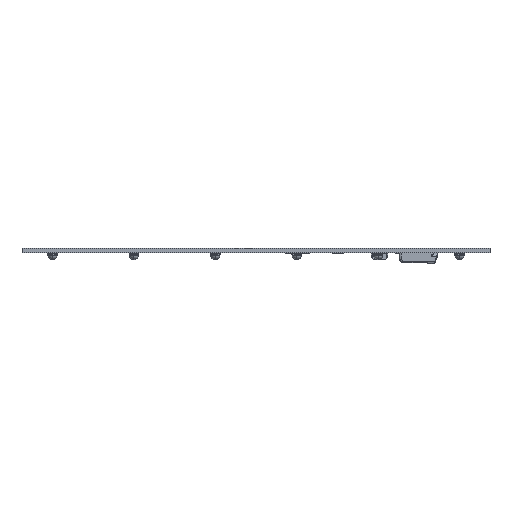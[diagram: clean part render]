
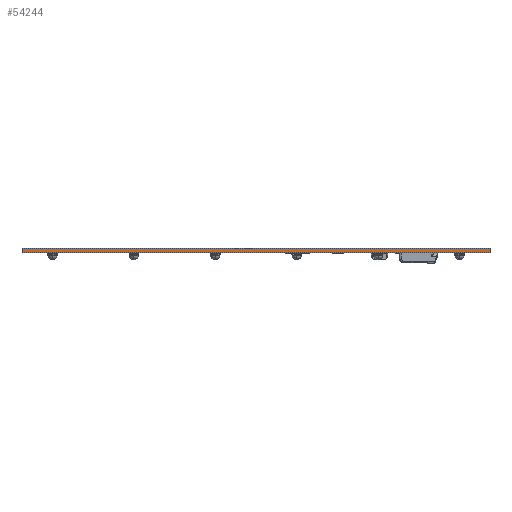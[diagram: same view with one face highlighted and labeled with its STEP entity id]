
A CAD part, front view. The second image highlights one B-rep face of the part: STEP entity #54244.
In plain terms, the highlighted planar face has unit normal (0, -1, 0).
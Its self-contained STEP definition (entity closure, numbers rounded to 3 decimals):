
#92=DIRECTION('',(-1.,0.,0.));
#93=VECTOR('',#92,146.);
#94=CARTESIAN_POINT('',(73.,-22.2,0.));
#95=LINE('',#94,#93);
#248=DIRECTION('',(-1.,0.,0.));
#249=VECTOR('',#248,146.);
#250=CARTESIAN_POINT('',(73.,-22.2,-1.5));
#251=LINE('',#250,#249);
#252=DIRECTION('',(0.,0.,1.));
#253=VECTOR('',#252,1.5);
#254=CARTESIAN_POINT('',(-73.,-22.2,-1.5));
#255=LINE('',#254,#253);
#260=DIRECTION('',(0.,0.,1.));
#261=VECTOR('',#260,1.5);
#262=CARTESIAN_POINT('',(73.,-22.2,-1.5));
#263=LINE('',#262,#261);
#40686=CARTESIAN_POINT('',(73.,-22.2,0.));
#40687=VERTEX_POINT('',#40686);
#40688=CARTESIAN_POINT('',(-73.,-22.2,0.));
#40689=VERTEX_POINT('',#40688);
#41888=CARTESIAN_POINT('',(-73.,-22.2,-1.5));
#41889=VERTEX_POINT('',#41888);
#41890=CARTESIAN_POINT('',(73.,-22.2,-1.5));
#41891=VERTEX_POINT('',#41890);
#54231=CARTESIAN_POINT('',(-73.,-22.2,0.));
#54232=DIRECTION('',(0.,-1.,0.));
#54233=DIRECTION('',(1.,0.,0.));
#54234=AXIS2_PLACEMENT_3D('',#54231,#54232,#54233);
#54235=PLANE('',#54234);
#54236=ORIENTED_EDGE('',*,*,#54028,.F.);
#54238=ORIENTED_EDGE('',*,*,#54237,.F.);
#54240=ORIENTED_EDGE('',*,*,#54239,.T.);
#54241=ORIENTED_EDGE('',*,*,#54216,.T.);
#54242=EDGE_LOOP('',(#54236,#54238,#54240,#54241));
#54243=FACE_OUTER_BOUND('',#54242,.F.);
#54028=EDGE_CURVE('',#40687,#40689,#95,.T.);
#54216=EDGE_CURVE('',#41889,#40689,#255,.T.);
#54237=EDGE_CURVE('',#41891,#40687,#263,.T.);
#54239=EDGE_CURVE('',#41891,#41889,#251,.T.);
#54244=ADVANCED_FACE('',(#54243),#54235,.T.);
